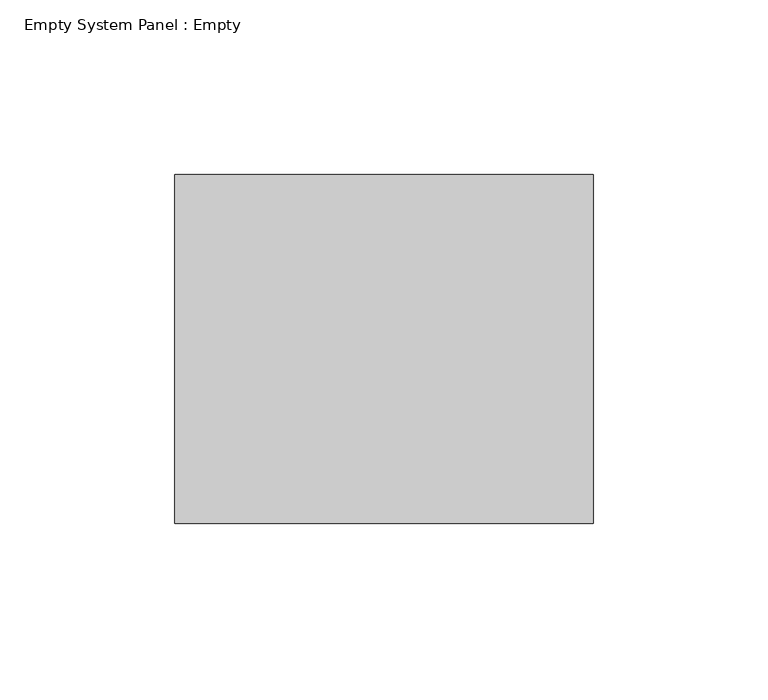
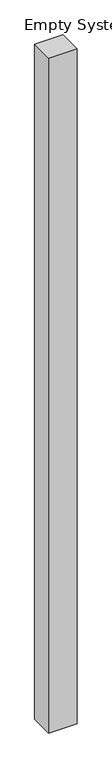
"""IFC4 building model written with IfcOpenShell, lengths in millimetres: plate geometry, Empty System Panel : Empty."""

import ifcopenshell
import ifcopenshell.guid

model = None  # the IFC model being written
_history = None  # IfcOwnerHistory: only IFC2X3 demands one
_inside = {}  # id of a spatial element -> (the spatial element, [elements in it])
_under = {}  # id of a project, library or spatial element -> (it, [spatial elements below it])
_declared = {}  # id of a project -> (the project, [libraries it declares])
_typed = {}  # id of a type object -> (the type object, [elements of that type])
_made_of = {}  # id of a material, layer set ... -> (it, [elements and type objects made of it])


def new_model(schema):
    """Start an empty IFC model of exactly this schema.

    Asked for "IFC4X3", IfcOpenShell would pick the latest addendum, in which some entities
    have other attributes; the version numbers below select the first issue.
    IFC2X3 requires an IfcOwnerHistory on every rooted entity: one is made here for all.
    """
    global model, _history
    if schema == "IFC4X3":
        model = ifcopenshell.file(schema_version=(4, 3, 0, 0))
    else:
        model = ifcopenshell.file(schema=schema)
    _inside.clear()
    _under.clear()
    _declared.clear()
    _typed.clear()
    _made_of.clear()
    _history = None
    if model.schema == "IFC2X3":
        org = make("IfcOrganization", Name="unknown")
        user = make(
            "IfcPersonAndOrganization",
            ThePerson=make("IfcPerson", FamilyName="unknown"),
            TheOrganization=org,
        )
        app = make(
            "IfcApplication",
            ApplicationDeveloper=org,
            Version="unknown",
            ApplicationFullName="unknown",
            ApplicationIdentifier="unknown",
        )
        _history = make(
            "IfcOwnerHistory",
            OwningUser=user,
            OwningApplication=app,
            ChangeAction="ADDED",
            CreationDate=0,
        )
    return model


def make(cls, **values):
    """One entity of the class cls with the attributes given. An attribute that is None is left unset."""
    return model.create_entity(
        cls, **{name: value for name, value in values.items() if value is not None}
    )


def rooted(cls, **values):
    """An entity with a GlobalId (a new one), such as an element, a storey or a relation."""
    return make(cls, GlobalId=ifcopenshell.guid.new(), OwnerHistory=_history, **values)


def si_unit(unit_type, name, prefix=None):
    """IfcSIUnit, for example si_unit("LENGTHUNIT", "METRE", prefix="MILLI")."""
    return make("IfcSIUnit", UnitType=unit_type, Prefix=prefix, Name=name)


def assignment(units):
    """IfcUnitAssignment: the units of a project."""
    return None if units is None else make("IfcUnitAssignment", Units=units)


def point(xyz):
    """IfcCartesianPoint."""
    return None if xyz is None else make("IfcCartesianPoint", Coordinates=xyz)


def direction(xyz):
    """IfcDirection."""
    return None if xyz is None else make("IfcDirection", DirectionRatios=xyz)


def frame(location, z_axis=None, x_axis=None):
    """IfcAxis2Placement3D, a coordinate frame: its origin and axes. An axis left out is left unset."""
    return make(
        "IfcAxis2Placement3D",
        Location=point(location),
        Axis=direction(z_axis),
        RefDirection=direction(x_axis),
    )


def origin():
    """The frame at (0, 0, 0) with its axes left unset."""
    return frame((0.0, 0.0, 0.0))


def origin_with_axes():
    """The frame at (0, 0, 0) with the z axis (0, 0, 1) and the x axis (1, 0, 0) written out."""
    return frame((0.0, 0.0, 0.0), z_axis=(0.0, 0.0, 1.0), x_axis=(1.0, 0.0, 0.0))


def place(relative_to, where):
    """IfcLocalPlacement: puts the frame where relative to a parent placement (None: the world)."""
    return make(
        "IfcLocalPlacement", PlacementRelTo=relative_to, RelativePlacement=where
    )


def context(
    kind, dimensions, precision=None, world=None, true_north=None, identifier=None
):
    """IfcGeometricRepresentationContext, for example the 3D "Model" context."""
    return make(
        "IfcGeometricRepresentationContext",
        ContextIdentifier=identifier,
        ContextType=kind,
        CoordinateSpaceDimension=dimensions,
        Precision=precision,
        WorldCoordinateSystem=world,
        TrueNorth=true_north,
    )


def project(units=None, contexts=None):
    """IfcProject with its units and contexts."""
    return rooted(
        "IfcProject",
        Name="project",
        RepresentationContexts=contexts,
        UnitsInContext=assignment(units),
    )


def spatial(cls, under=None, at=None, **own):
    """A site, building, storey or space (cls), placed at a placement, below another one or the project."""
    s = rooted(cls, ObjectPlacement=at, **own)
    if under is not None:
        _under.setdefault(under.id(), (under, []))[1].append(s)
    return s


def polyline(points):
    """IfcPolyline through the points."""
    return make("IfcPolyline", Points=[point(p) for p in points])


def outline(outer, holes=None, kind="AREA"):
    """IfcArbitraryClosedProfileDef: a profile drawn as a closed curve; with holes, ...WithVoids."""
    if holes is None:
        return make("IfcArbitraryClosedProfileDef", ProfileType=kind, OuterCurve=outer)
    return make(
        "IfcArbitraryProfileDefWithVoids",
        ProfileType=kind,
        OuterCurve=outer,
        InnerCurves=holes,
    )


def extrude(swept, where, along, depth):
    """IfcExtrudedAreaSolid: the profile swept, set in the frame where, extruded along a direction by depth."""
    return make(
        "IfcExtrudedAreaSolid",
        SweptArea=swept,
        Position=where,
        ExtrudedDirection=direction(along),
        Depth=depth,
    )


def shape(context_of_items, identifier, shape_type, items):
    """IfcShapeRepresentation: the items that make up one representation, for example the "Body"."""
    return make(
        "IfcShapeRepresentation",
        ContextOfItems=context_of_items,
        RepresentationIdentifier=identifier,
        RepresentationType=shape_type,
        Items=items,
    )


def source(mapping_origin, context_of_items, identifier, shape_type, items):
    """IfcRepresentationMap: a shape defined once, which mapped items show again and again."""
    return make(
        "IfcRepresentationMap",
        MappingOrigin=mapping_origin,
        MappedRepresentation=shape(context_of_items, identifier, shape_type, items),
    )


def transform(
    local_origin,
    x_axis=None,
    y_axis=None,
    z_axis=None,
    scale=None,
    scale2=None,
    scale3=None,
    uniform=True,
):
    """IfcCartesianTransformationOperator3D, or its non-uniform kind. x_axis, y_axis, z_axis: its Axis1, 2, 3."""
    if uniform:
        return make(
            "IfcCartesianTransformationOperator3D",
            Axis1=direction(x_axis),
            Axis2=direction(y_axis),
            LocalOrigin=point(local_origin),
            Scale=scale,
            Axis3=direction(z_axis),
        )
    return make(
        "IfcCartesianTransformationOperator3DnonUniform",
        Axis1=direction(x_axis),
        Axis2=direction(y_axis),
        LocalOrigin=point(local_origin),
        Scale=scale,
        Axis3=direction(z_axis),
        Scale2=scale2,
        Scale3=scale3,
    )


def mapped(mapping_source, mapping_target):
    """IfcMappedItem: shows the shape of a source again, moved by a transform."""
    return make(
        "IfcMappedItem", MappingSource=mapping_source, MappingTarget=mapping_target
    )


def made_of(thing, what):
    """Note that an element or type object is made of a material, layer set ...; save() writes the relation."""
    if what is not None:
        _made_of.setdefault(what.id(), (what, []))[1].append(thing)
    return thing


def element(
    cls,
    number,
    at=None,
    inside=None,
    cuts=None,
    type_object=None,
    material=None,
    context=None,
    identifier="Body",
    shape_type=None,
    held_by="IfcProductDefinitionShape",
    body=None,
    shapes=None,
    **own,
):
    """One element of the class cls, such as IfcWall. Its Tag is "e" and its number.

    at: its placement. inside: the storey or other place that contains it. cuts: it is an
    opening in that element (IfcRelVoidsElement). A single representation is given by context,
    identifier, shape_type and body (its items); several are given by shapes. held_by: the class
    of the entity that holds the representations. save() writes the other relations.
    """
    e = rooted(cls, Tag="e%d" % number, ObjectPlacement=at, **own)
    if body is not None:
        shapes = [shape(context, identifier, shape_type, body)]
    if shapes is not None:
        e.Representation = make(held_by, Representations=shapes)
    if inside is not None:
        _inside.setdefault(inside.id(), (inside, []))[1].append(e)
    if cuts is not None:
        rooted(
            "IfcRelVoidsElement", RelatingBuildingElement=cuts, RelatedOpeningElement=e
        )
    if type_object is not None:
        _typed.setdefault(type_object.id(), (type_object, []))[1].append(e)
    return made_of(e, material)


def aggregate(whole, parts):
    """IfcRelAggregates: a whole, such as a stair, and the parts it consists of."""
    return rooted("IfcRelAggregates", RelatingObject=whole, RelatedObjects=parts)


def save(model, path):
    """Write the relations noted so far, then the file.

    IfcRelAggregates (storeys below a building ...), IfcRelContainedInSpatialStructure (elements
    in a storey), IfcRelDefinesByType, IfcRelAssociatesMaterial and IfcRelDeclares: one each for
    every whole, place, type object, material and project.
    """
    for whole, parts in _under.values():
        aggregate(whole, parts)
    for where, things in _inside.values():
        rooted(
            "IfcRelContainedInSpatialStructure",
            RelatedElements=things,
            RelatingStructure=where,
        )
    for kind, things in _typed.values():
        rooted("IfcRelDefinesByType", RelatedObjects=things, RelatingType=kind)
    for what, things in _made_of.values():
        rooted("IfcRelAssociatesMaterial", RelatedObjects=things, RelatingMaterial=what)
    for by, libraries in _declared.values():
        rooted("IfcRelDeclares", RelatingContext=by, RelatedDefinitions=libraries)
    model.write(path)


def empty_system_panel_empty_cb8e8c2e(model_context):
    return source(origin(), model_context, "Body", "SweptSolid", [
        extrude(outline(polyline([(60.0, -50.0), (-60.0, -50.0), (-60.0, 50.0), (60.0, 50.0), (60.0, -50.0)])), origin_with_axes(), (0.0, 0.0, 1.0), 3000.0),
    ])


if __name__ == "__main__":
    model = new_model("IFC4")
    model_context = context("Model", 3, world=origin())
    ifc_project = project(units=[si_unit("LENGTHUNIT", "METRE", prefix="MILLI")], contexts=[model_context])
    site = spatial("IfcSite", under=ifc_project)
    building = spatial("IfcBuilding", under=site)
    placement = place(None, origin())
    empty_system_panel_empty_shape = empty_system_panel_empty_cb8e8c2e(model_context)
    element("IfcPlate", 1, ObjectType="Empty System Panel : Empty", at=placement, inside=building, context=model_context, shape_type="MappedRepresentation", body=[
        mapped(empty_system_panel_empty_shape, transform((0.0, 0.0, 0.0), x_axis=(1.0, 0.0, 0.0), y_axis=(0.0, 1.0, 0.0), z_axis=(0.0, 0.0, 1.0))),
    ])
    save(model, "model.ifc")
